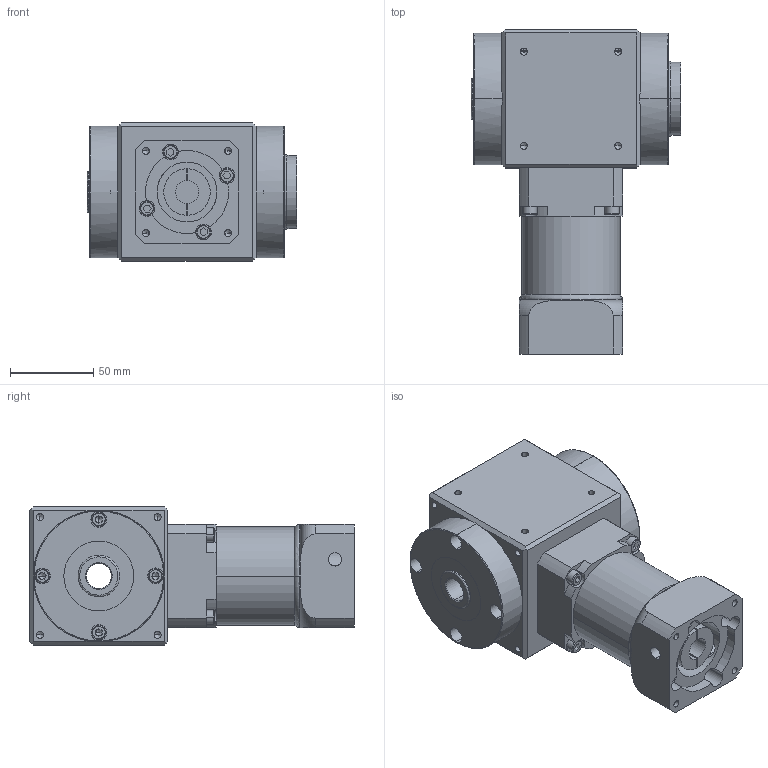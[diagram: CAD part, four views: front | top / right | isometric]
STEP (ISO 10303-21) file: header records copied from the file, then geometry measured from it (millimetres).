
FILE_DESCRIPTION (( 'STEP AP214' ), '1' );
FILE_NAME ('RAH060-L2-XX-F-14-50-70-M5_2019.STEP', '2019-03-22T10:36:31', ( 'Y' ), ( 'NCU' ), 'SwSTEP 2.0', 'SolidWorks 2016', '' );
FILE_SCHEMA (( 'AUTOMOTIVE_DESIGN' ));
Length unit declared in the file: millimetre
Products named in the file (1): RAH060-L2-XX-F-14-50-70-M5_2019
Bounding box: 126 x 195 x 83 mm (x, y, z)
Volume: 1049976.2 mm3; surface area: 114219.1 mm2
Topology: 2 solids, 10 shells, 609 faces, 1487 edges, 908 vertices
Faces by surface type: plane 258, cylinder 221, cone 104, bspline 22, torus 4
Entity records: 19294 total; most frequent: CARTESIAN_POINT 4005, DIRECTION 3077, ORIENTED_EDGE 2830, EDGE_CURVE 1415, AXIS2_PLACEMENT_3D 1168, VERTEX_POINT 908, VECTOR 741, LINE 741
